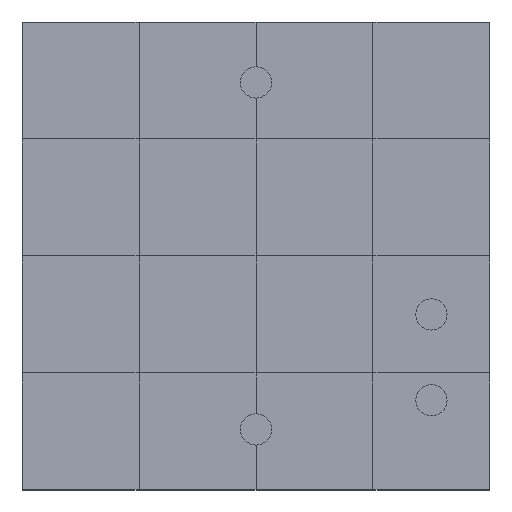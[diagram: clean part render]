
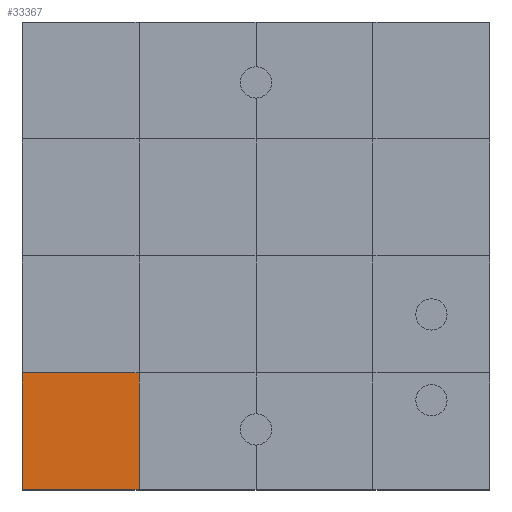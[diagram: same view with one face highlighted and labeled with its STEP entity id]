
A CAD part, top view. The second image highlights one B-rep face of the part: STEP entity #33367.
In plain terms, the highlighted planar face has unit normal (0, 0, 1).
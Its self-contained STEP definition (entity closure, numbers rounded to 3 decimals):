
#33178 = VERTEX_POINT('',#33179);
#33179 = CARTESIAN_POINT('',(0.,0.,1.5));
#33186 = PLANE('',#33187);
#33187 = AXIS2_PLACEMENT_3D('',#33188,#33189,#33190);
#33188 = CARTESIAN_POINT('',(0.,0.,0.));
#33189 = DIRECTION('',(1.,0.,-0.));
#33190 = DIRECTION('',(0.,0.,1.));
#33198 = PLANE('',#33199);
#33199 = AXIS2_PLACEMENT_3D('',#33200,#33201,#33202);
#33200 = CARTESIAN_POINT('',(0.,0.,0.));
#33201 = DIRECTION('',(-0.,1.,0.));
#33202 = DIRECTION('',(0.,0.,1.));
#33239 = VERTEX_POINT('',#33240);
#33240 = CARTESIAN_POINT('',(0.,3.,1.5));
#33266 = EDGE_CURVE('',#33178,#33239,#33267,.T.);
#33267 = SURFACE_CURVE('',#33268,(#33272,#33279),.PCURVE_S1.);
#33268 = LINE('',#33269,#33270);
#33269 = CARTESIAN_POINT('',(0.,0.,1.5));
#33270 = VECTOR('',#33271,1.);
#33271 = DIRECTION('',(-0.,1.,0.));
#33272 = PCURVE('',#33186,#33273);
#33273 = DEFINITIONAL_REPRESENTATION('',(#33274),#33278);
#33274 = LINE('',#33275,#33276);
#33275 = CARTESIAN_POINT('',(1.5,0.));
#33276 = VECTOR('',#33277,1.);
#33277 = DIRECTION('',(0.,-1.));
#33278 = ( GEOMETRIC_REPRESENTATION_CONTEXT(2) 
PARAMETRIC_REPRESENTATION_CONTEXT() REPRESENTATION_CONTEXT('2D SPACE',''
  ) );
#33279 = PCURVE('',#33280,#33285);
#33280 = PLANE('',#33281);
#33281 = AXIS2_PLACEMENT_3D('',#33282,#33283,#33284);
#33282 = CARTESIAN_POINT('',(0.,0.,1.5));
#33283 = DIRECTION('',(0.,0.,1.));
#33284 = DIRECTION('',(1.,0.,-0.));
#33285 = DEFINITIONAL_REPRESENTATION('',(#33286),#33290);
#33286 = LINE('',#33287,#33288);
#33287 = CARTESIAN_POINT('',(0.,0.));
#33288 = VECTOR('',#33289,1.);
#33289 = DIRECTION('',(0.,1.));
#33290 = ( GEOMETRIC_REPRESENTATION_CONTEXT(2) 
PARAMETRIC_REPRESENTATION_CONTEXT() REPRESENTATION_CONTEXT('2D SPACE',''
  ) );
#33319 = EDGE_CURVE('',#33178,#33320,#33322,.T.);
#33320 = VERTEX_POINT('',#33321);
#33321 = CARTESIAN_POINT('',(3.,0.,1.5));
#33322 = SURFACE_CURVE('',#33323,(#33327,#33334),.PCURVE_S1.);
#33323 = LINE('',#33324,#33325);
#33324 = CARTESIAN_POINT('',(0.,0.,1.5));
#33325 = VECTOR('',#33326,1.);
#33326 = DIRECTION('',(1.,0.,-0.));
#33327 = PCURVE('',#33198,#33328);
#33328 = DEFINITIONAL_REPRESENTATION('',(#33329),#33333);
#33329 = LINE('',#33330,#33331);
#33330 = CARTESIAN_POINT('',(1.5,0.));
#33331 = VECTOR('',#33332,1.);
#33332 = DIRECTION('',(0.,1.));
#33333 = ( GEOMETRIC_REPRESENTATION_CONTEXT(2) 
PARAMETRIC_REPRESENTATION_CONTEXT() REPRESENTATION_CONTEXT('2D SPACE',''
  ) );
#33334 = PCURVE('',#33280,#33335);
#33335 = DEFINITIONAL_REPRESENTATION('',(#33336),#33340);
#33336 = LINE('',#33337,#33338);
#33337 = CARTESIAN_POINT('',(0.,0.));
#33338 = VECTOR('',#33339,1.);
#33339 = DIRECTION('',(1.,0.));
#33340 = ( GEOMETRIC_REPRESENTATION_CONTEXT(2) 
PARAMETRIC_REPRESENTATION_CONTEXT() REPRESENTATION_CONTEXT('2D SPACE',''
  ) );
#33367 = ADVANCED_FACE('',(#33368),#33280,.T.);
#33368 = FACE_BOUND('',#33369,.T.);
#33369 = EDGE_LOOP('',(#33370,#33371,#33372,#33400));
#33370 = ORIENTED_EDGE('',*,*,#33266,.F.);
#33371 = ORIENTED_EDGE('',*,*,#33319,.T.);
#33372 = ORIENTED_EDGE('',*,*,#33373,.T.);
#33373 = EDGE_CURVE('',#33320,#33374,#33376,.T.);
#33374 = VERTEX_POINT('',#33375);
#33375 = CARTESIAN_POINT('',(3.,3.,1.5));
#33376 = SURFACE_CURVE('',#33377,(#33381,#33388),.PCURVE_S1.);
#33377 = LINE('',#33378,#33379);
#33378 = CARTESIAN_POINT('',(3.,0.,1.5));
#33379 = VECTOR('',#33380,1.);
#33380 = DIRECTION('',(-0.,1.,0.));
#33381 = PCURVE('',#33280,#33382);
#33382 = DEFINITIONAL_REPRESENTATION('',(#33383),#33387);
#33383 = LINE('',#33384,#33385);
#33384 = CARTESIAN_POINT('',(3.,0.));
#33385 = VECTOR('',#33386,1.);
#33386 = DIRECTION('',(0.,1.));
#33387 = ( GEOMETRIC_REPRESENTATION_CONTEXT(2) 
PARAMETRIC_REPRESENTATION_CONTEXT() REPRESENTATION_CONTEXT('2D SPACE',''
  ) );
#33388 = PCURVE('',#33389,#33394);
#33389 = PLANE('',#33390);
#33390 = AXIS2_PLACEMENT_3D('',#33391,#33392,#33393);
#33391 = CARTESIAN_POINT('',(3.,0.,1.5));
#33392 = DIRECTION('',(0.,0.,1.));
#33393 = DIRECTION('',(1.,0.,-0.));
#33394 = DEFINITIONAL_REPRESENTATION('',(#33395),#33399);
#33395 = LINE('',#33396,#33397);
#33396 = CARTESIAN_POINT('',(0.,0.));
#33397 = VECTOR('',#33398,1.);
#33398 = DIRECTION('',(0.,1.));
#33399 = ( GEOMETRIC_REPRESENTATION_CONTEXT(2) 
PARAMETRIC_REPRESENTATION_CONTEXT() REPRESENTATION_CONTEXT('2D SPACE',''
  ) );
#33400 = ORIENTED_EDGE('',*,*,#33401,.F.);
#33401 = EDGE_CURVE('',#33239,#33374,#33402,.T.);
#33402 = SURFACE_CURVE('',#33403,(#33407,#33414),.PCURVE_S1.);
#33403 = LINE('',#33404,#33405);
#33404 = CARTESIAN_POINT('',(0.,3.,1.5));
#33405 = VECTOR('',#33406,1.);
#33406 = DIRECTION('',(1.,0.,-0.));
#33407 = PCURVE('',#33280,#33408);
#33408 = DEFINITIONAL_REPRESENTATION('',(#33409),#33413);
#33409 = LINE('',#33410,#33411);
#33410 = CARTESIAN_POINT('',(0.,3.));
#33411 = VECTOR('',#33412,1.);
#33412 = DIRECTION('',(1.,0.));
#33413 = ( GEOMETRIC_REPRESENTATION_CONTEXT(2) 
PARAMETRIC_REPRESENTATION_CONTEXT() REPRESENTATION_CONTEXT('2D SPACE',''
  ) );
#33414 = PCURVE('',#33415,#33420);
#33415 = PLANE('',#33416);
#33416 = AXIS2_PLACEMENT_3D('',#33417,#33418,#33419);
#33417 = CARTESIAN_POINT('',(0.,3.,1.5));
#33418 = DIRECTION('',(0.,0.,1.));
#33419 = DIRECTION('',(1.,0.,-0.));
#33420 = DEFINITIONAL_REPRESENTATION('',(#33421),#33425);
#33421 = LINE('',#33422,#33423);
#33422 = CARTESIAN_POINT('',(0.,0.));
#33423 = VECTOR('',#33424,1.);
#33424 = DIRECTION('',(1.,0.));
#33425 = ( GEOMETRIC_REPRESENTATION_CONTEXT(2) 
PARAMETRIC_REPRESENTATION_CONTEXT() REPRESENTATION_CONTEXT('2D SPACE',''
  ) );
